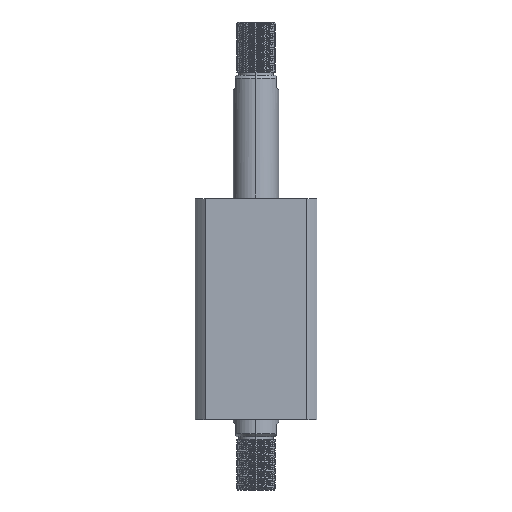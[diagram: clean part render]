
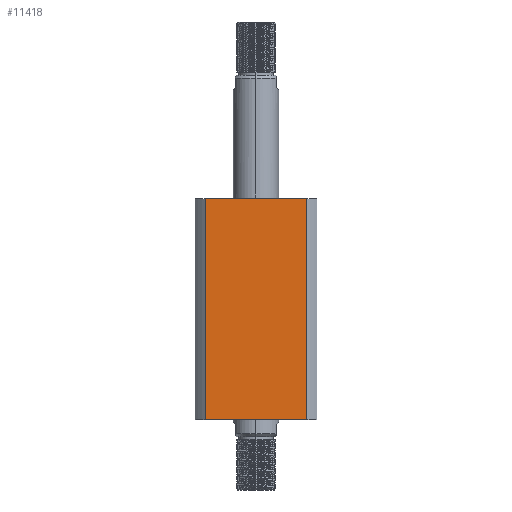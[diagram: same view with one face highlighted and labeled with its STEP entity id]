
A CAD part, left-side view. The second image highlights one B-rep face of the part: STEP entity #11418.
In plain terms, the highlighted planar face has unit normal (-1, 0, 0).
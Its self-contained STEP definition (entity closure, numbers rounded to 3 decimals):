
#172 = EDGE_CURVE ( 'NONE', #17345, #16226, #15016, .T. ) ;
#498 = ORIENTED_EDGE ( 'NONE', *, *, #14916, .F. ) ;
#799 = CARTESIAN_POINT ( 'NONE',  ( -40., 33.226, -72.5 ) ) ;
#842 = EDGE_LOOP ( 'NONE', ( #2647, #13370, #498, #891 ) ) ;
#891 = ORIENTED_EDGE ( 'NONE', *, *, #4323, .T. ) ;
#955 = CARTESIAN_POINT ( 'NONE',  ( -40., 33.226, 72.5 ) ) ;
#1449 = LINE ( 'NONE', #955, #3588 ) ;
#1475 = DIRECTION ( 'NONE',  ( 0., 0., -1. ) ) ;
#2340 = FACE_OUTER_BOUND ( 'NONE', #842, .T. ) ;
#2647 = ORIENTED_EDGE ( 'NONE', *, *, #172, .T. ) ;
#3588 = VECTOR ( 'NONE', #10454, 1000. ) ;
#3812 = VERTEX_POINT ( 'NONE', #12319 ) ;
#4323 = EDGE_CURVE ( 'NONE', #3812, #17345, #4835, .T. ) ;
#4835 = LINE ( 'NONE', #6399, #11662 ) ;
#5260 = DIRECTION ( 'NONE',  ( 0., 0., -1. ) ) ;
#5569 = DIRECTION ( 'NONE',  ( 0., -1., 0. ) ) ;
#6399 = CARTESIAN_POINT ( 'NONE',  ( -40., 33.226, 72.5 ) ) ;
#8166 = CARTESIAN_POINT ( 'NONE',  ( -40., 33.226, -72.5 ) ) ;
#8803 = PLANE ( 'NONE',  #9932 ) ;
#9113 = VECTOR ( 'NONE', #1475, 1000. ) ;
#9932 = AXIS2_PLACEMENT_3D ( 'NONE', #10179, #11561, #17119 ) ;
#10179 = CARTESIAN_POINT ( 'NONE',  ( -40., 33.226, 72.5 ) ) ;
#10454 = DIRECTION ( 'NONE',  ( 0., -1., 0. ) ) ;
#11418 = ADVANCED_FACE ( 'NONE', ( #2340 ), #8803, .F. ) ;
#11561 = DIRECTION ( 'NONE',  ( 1., 0., 0. ) ) ;
#11662 = VECTOR ( 'NONE', #5260, 1000. ) ;
#11832 = EDGE_CURVE ( 'NONE', #11973, #16226, #15975, .T. ) ;
#11973 = VERTEX_POINT ( 'NONE', #16545 ) ;
#12319 = CARTESIAN_POINT ( 'NONE',  ( -40., 33.226, 72.5 ) ) ;
#13370 = ORIENTED_EDGE ( 'NONE', *, *, #11832, .F. ) ;
#13962 = VECTOR ( 'NONE', #5569, 1000. ) ;
#14375 = CARTESIAN_POINT ( 'NONE',  ( -40., -33.226, -72.5 ) ) ;
#14916 = EDGE_CURVE ( 'NONE', #3812, #11973, #1449, .T. ) ;
#15016 = LINE ( 'NONE', #8166, #13962 ) ;
#15179 = CARTESIAN_POINT ( 'NONE',  ( -40., -33.226, 72.5 ) ) ;
#15975 = LINE ( 'NONE', #15179, #9113 ) ;
#16226 = VERTEX_POINT ( 'NONE', #14375 ) ;
#16545 = CARTESIAN_POINT ( 'NONE',  ( -40., -33.226, 72.5 ) ) ;
#17119 = DIRECTION ( 'NONE',  ( 0., 1., 0. ) ) ;
#17345 = VERTEX_POINT ( 'NONE', #799 ) ;
